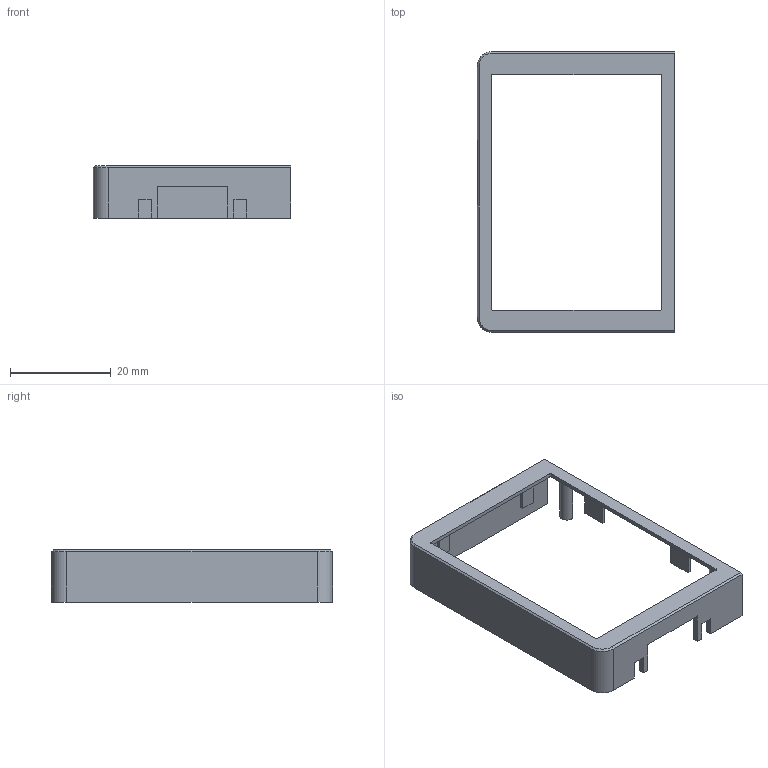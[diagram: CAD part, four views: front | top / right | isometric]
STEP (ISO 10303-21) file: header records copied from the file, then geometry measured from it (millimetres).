
FILE_DESCRIPTION(('Open CASCADE Model'),'2;1');
FILE_NAME('Open CASCADE Shape Model','2026-11-25T12:44:31',('Author'),( 'Open CASCADE'),'Open CASCADE STEP processor 7.9','Open CASCADE 7.9' ,'Unknown');
FILE_SCHEMA(('AUTOMOTIVE_DESIGN { 1 0 10303 214 1 1 1 1 }'));
Length unit declared in the file: millimetre
Products named in the file (1): Open CASCADE STEP translator 7.9 6
Bounding box: 39.2 x 55.8 x 10.4 mm (x, y, z)
Volume: 1981.5 mm3; surface area: 4321.4 mm2
Topology: 1 solids, 1 shells, 87 faces, 227 edges, 150 vertices
Faces by surface type: plane 73, cylinder 12, cone 2
Entity records: 5654 total; most frequent: CARTESIAN_POINT 1027, DIRECTION 865, LINE 631, VECTOR 631, ORIENTED_EDGE 454, PCURVE 454, DEFINITIONAL_REPRESENTATION 454, EDGE_CURVE 227
